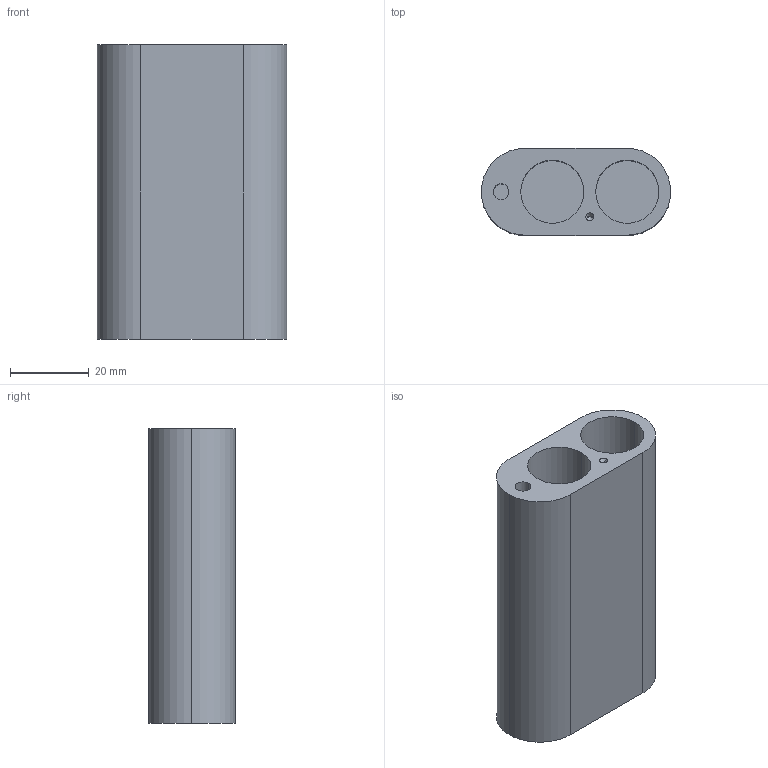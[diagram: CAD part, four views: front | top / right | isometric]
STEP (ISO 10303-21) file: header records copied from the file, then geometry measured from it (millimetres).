
FILE_DESCRIPTION(('CATIA V5 STEP Exchange'),'2;1');
FILE_NAME('C:\users\andol\Mes documents\Lien vers ANDOL_8GO\PROJETS\3D_LIB\ETUI_VAPOTEUR\etui_vapoteur_V4\ETUI_VAPOTEUR_V4_LW.stp','2012-05-12T22:24:39+00:00',('none'),('none'),'CATIA Version 5 Release 19 SP 2 (IN-10)','CATIA V5 STEP AP203','none');
FILE_SCHEMA(('CONFIG_CONTROL_DESIGN'));
Length unit declared in the file: millimetre
Products named in the file (1): etui_vapoteur_V4_LW
Bounding box: 48 x 22 x 74.6 mm (x, y, z)
Volume: 41860.3 mm3; surface area: 18906.6 mm2
Topology: 1 solids, 1 shells, 19 faces, 42 edges, 27 vertices
Faces by surface type: cylinder 10, plane 7, cone 2
Entity records: 519 total; most frequent: CARTESIAN_POINT 82, ORIENTED_EDGE 80, DIRECTION 68, EDGE_CURVE 40, AXIS2_PLACEMENT_3D 37, VERTEX_POINT 27, EDGE_LOOP 23, CIRCLE 22
